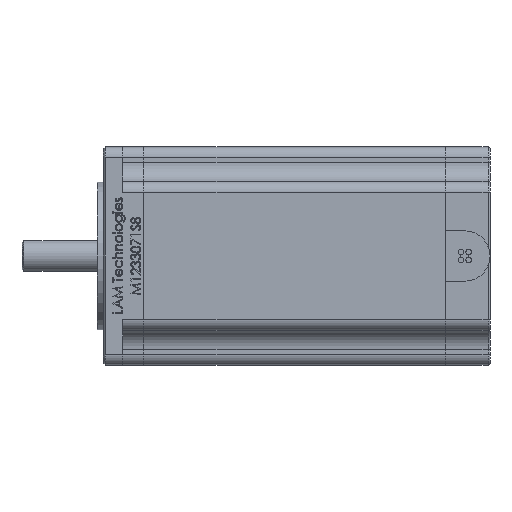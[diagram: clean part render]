
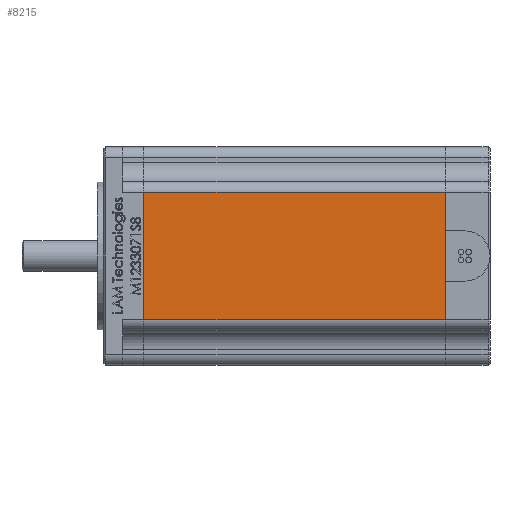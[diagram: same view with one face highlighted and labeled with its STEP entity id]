
A CAD part, left-side view. The second image highlights one B-rep face of the part: STEP entity #8215.
In plain terms, the highlighted planar face has unit normal (-1, 0, 0).
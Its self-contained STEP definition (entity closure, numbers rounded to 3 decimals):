
#8143 = EDGE_CURVE ( 'NONE', #8160, #8154, #52200, .T. ) ;
#8144 = ORIENTED_EDGE ( 'NONE', *, *, #8146, .F. ) ;
#8146 = EDGE_CURVE ( 'NONE', #8147, #8154, #52183, .T. ) ;
#8147 = VERTEX_POINT ( 'NONE', #52177 ) ;
#8153 = ORIENTED_EDGE ( 'NONE', *, *, #8143, .T. ) ;
#8154 = VERTEX_POINT ( 'NONE', #52274 ) ;
#8159 = VERTEX_POINT ( 'NONE', #52257 ) ;
#8160 = VERTEX_POINT ( 'NONE', #52256 ) ;
#8163 = ORIENTED_EDGE ( 'NONE', *, *, #8164, .T. ) ;
#8164 = EDGE_CURVE ( 'NONE', #8147, #8159, #52224, .T. ) ;
#8211 = EDGE_LOOP ( 'NONE', ( #8216, #8153, #8144, #8163 ) ) ;
#8215 = ADVANCED_FACE ( 'NONE', ( #52611 ), #52581, .F. ) ;
#8216 = ORIENTED_EDGE ( 'NONE', *, *, #8217, .T. ) ;
#8217 = EDGE_CURVE ( 'NONE', #8159, #8160, #52569, .T. ) ;
#52177 = CARTESIAN_POINT ( 'NONE',  ( -28.2, 78., -16.45 ) ) ;
#52179 = DIRECTION ( 'NONE',  ( 0., 0., 1. ) ) ;
#52180 = VECTOR ( 'NONE', #52179, 1000. ) ;
#52181 = CARTESIAN_POINT ( 'NONE',  ( -28.2, 78., 28.2 ) ) ;
#52183 = LINE ( 'NONE', #52181, #52180 ) ;
#52186 = DIRECTION ( 'NONE',  ( 0., 1., 0. ) ) ;
#52187 = VECTOR ( 'NONE', #52186, 1000. ) ;
#52188 = CARTESIAN_POINT ( 'NONE',  ( -28.2, 78., 16.45 ) ) ;
#52200 = LINE ( 'NONE', #52188, #52187 ) ;
#52224 = LINE ( 'NONE', #52333, #52332 ) ;
#52256 = CARTESIAN_POINT ( 'NONE',  ( -28.2, 0., 16.45 ) ) ;
#52257 = CARTESIAN_POINT ( 'NONE',  ( -28.2, 0., -16.45 ) ) ;
#52274 = CARTESIAN_POINT ( 'NONE',  ( -28.2, 78., 16.45 ) ) ;
#52330 = DIRECTION ( 'NONE',  ( 0., -1., 0. ) ) ;
#52332 = VECTOR ( 'NONE', #52330, 1000. ) ;
#52333 = CARTESIAN_POINT ( 'NONE',  ( -28.2, 78., -16.45 ) ) ;
#52569 = LINE ( 'NONE', #52682, #52681 ) ;
#52573 = DIRECTION ( 'NONE',  ( 0., 0., -1. ) ) ;
#52575 = DIRECTION ( 'NONE',  ( 1., 0., 0. ) ) ;
#52577 = CARTESIAN_POINT ( 'NONE',  ( -28.2, 78., 28.2 ) ) ;
#52579 = AXIS2_PLACEMENT_3D ( 'NONE', #52577, #52575, #52573 ) ;
#52581 = PLANE ( 'NONE',  #52579 ) ;
#52611 = FACE_OUTER_BOUND ( 'NONE', #8211, .T. ) ;
#52679 = DIRECTION ( 'NONE',  ( 0., 0., 1. ) ) ;
#52681 = VECTOR ( 'NONE', #52679, 1000. ) ;
#52682 = CARTESIAN_POINT ( 'NONE',  ( -28.2, 0., 28.2 ) ) ;
